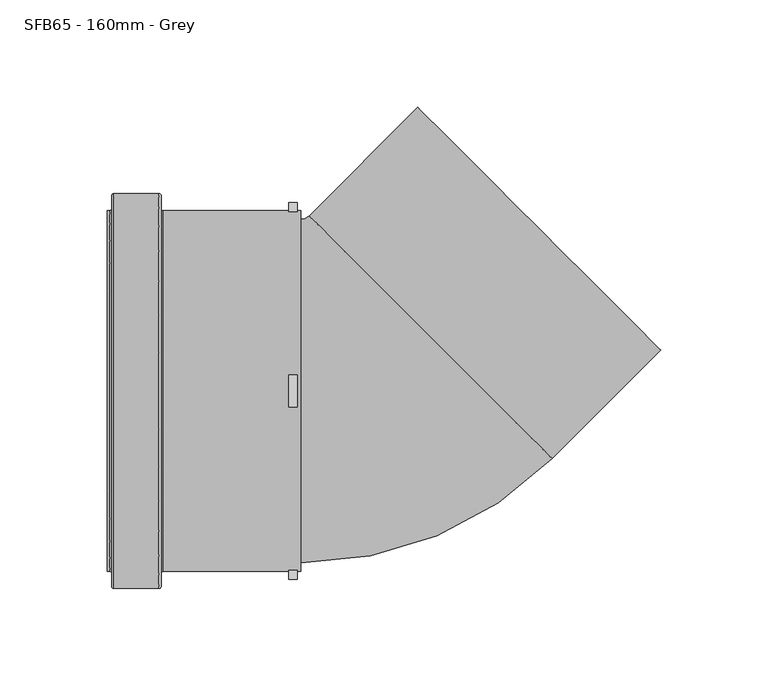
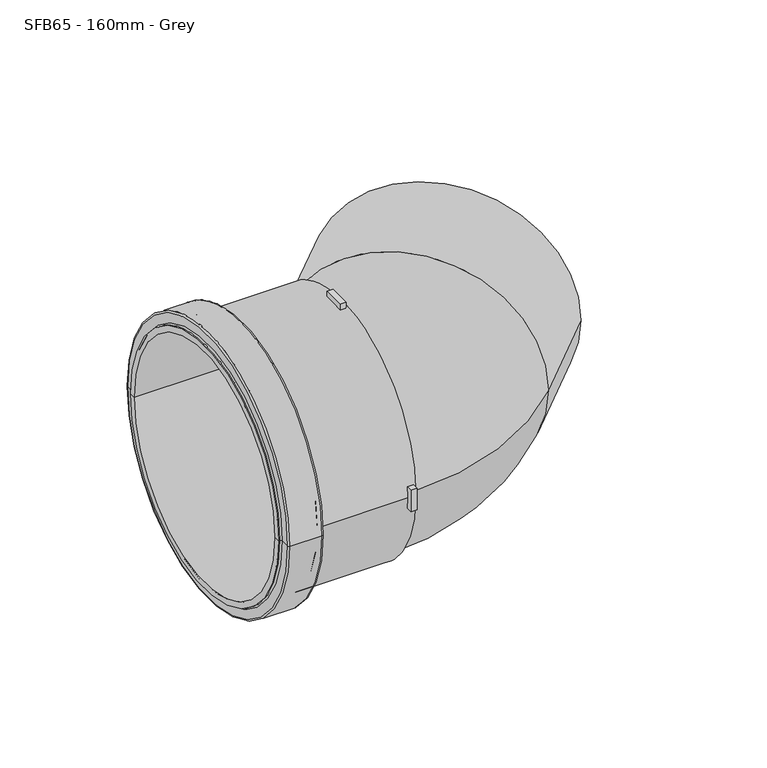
"""IFC4 building model written with IfcOpenShell, lengths in millimetres: pipe fitting geometry, MarleyPlumbingAndDrainage_PipeFitting_ShortRadiusBend45_SB35 : SFB65 - 160mm - Grey."""

from ifc_helpers import new_model, si_unit, point, frame, origin, place, context, project, spatial, polyline, circle_curve, ellipse_curve, trimmed, source, transform, mapped, element, save
from ifc_brep_helpers import plane_surface, cylinder_surface, revolved_surface, advanced_brep


def sfb65_160mm_grey_07c2b157(model_context):
    return source(origin(), model_context, "Body", "AdvancedBrep", [
        advanced_brep(
        [(-116.1820477, 92.0, 0.0), (-116.1820477, -92.0, 0.0), (-115.1820477, -91.0, 0.0), (-115.1820477, 91.0, 0.0), (-137.1820477, 92.0, 0.0), (-137.1820477, -92.0, 0.0), (-138.1820477, 91.0, 0.0), (-138.1820477, -91.0, 0.0), (-138.1820477, 85.0, 0.0), (-138.1820477, -85.0, 0.0), (-139.1820477, 84.0, 0.0), (-139.1820477, -84.0, 0.0), (-140.1820477, 80.0, 0.0), (-140.1820477, -80.0, 0.0), (-140.1820477, -84.0, 0.0), (-140.1820477, 84.0, 0.0), (-50.1820477, 80.0, 0.0), (-50.1820477, -80.0, 0.0), (-50.1820477, 84.0, 0.0), (-50.1820477, -84.0, 0.0), (-51.6820477, 84.0, 0.0), (-51.6820477, 83.6645086, 7.5), (-55.6820477, 83.6645086, 7.5), (-55.6820477, 84.0, 0.0), (-114.1820477, 84.0, 0.0), (-114.1820477, -84.0, 0.0), (-55.6820477, -84.0, 0.0), (-55.6820477, -83.6645086, 7.5), (-51.6820477, -83.6645086, 7.5), (-51.6820477, -84.0, 0.0), (-55.6820477, -7.5, 83.6645086), (-55.6820477, 7.5, 83.6645086), (-51.6820477, 7.5, 83.6645086), (-51.6820477, -7.5, 83.6645086), (-51.6820477, -83.6645086, -7.5), (-55.6820477, -83.6645086, -7.5), (-55.6820477, 83.6645086, -7.5), (-51.6820477, 83.6645086, -7.5), (-55.6820477, 7.5, -83.6645086), (-55.6820477, -7.5, -83.6645086), (-51.6820477, -7.5, -83.6645086), (-51.6820477, 7.5, -83.6645086), (-115.1820477, 85.0, 0.0), (-115.1820477, -85.0, 0.0), (-55.6820477, 87.6798152, 7.5), (-55.6820477, 87.6798152, -7.5), (-55.6820477, -7.5, 87.6798152), (-55.6820477, 7.5, 87.6798152), (-55.6820477, -87.6798152, -7.5), (-55.6820477, -87.6798152, 7.5), (-55.6820477, 7.5, -87.6798152), (-55.6820477, -7.5, -87.6798152), (-51.6820477, 87.6798152, -7.5), (-51.6820477, 87.6798152, 7.5), (-51.6820477, 7.5, 87.6798152), (-51.6820477, -7.5, 87.6798152), (-51.6820477, -87.6798152, 7.5), (-51.6820477, -87.6798152, -7.5), (-51.6820477, -7.5, -87.6798152), (-51.6820477, 7.5, -87.6798152)],
        [
            (0, 1, circle_curve(frame((-116.1820477, 0.0, 0.0), z_axis=(1.0, 0.0, 0.0), x_axis=(0.0, -1.0, 0.0)), 92.0)),
            (1, 2, circle_curve(frame((-116.1820477, -91.0, 0.0), z_axis=(0.0, 0.0, 1.0), x_axis=(0.0, -1.0, 0.0)), 1.0)),
            (2, 3, circle_curve(frame((-115.1820477, 0.0, 0.0), z_axis=(-1.0, 0.0, 0.0), x_axis=(0.0, -1.0, 0.0)), 91.0)),
            (3, 0, circle_curve(frame((-116.1820477, 91.0, 0.0), z_axis=(0.0, 0.0, 1.0), x_axis=(0.0, 1.0, 0.0)), 1.0)),
            (1, 0, circle_curve(frame((-116.1820477, 0.0, 0.0), z_axis=(1.0, 0.0, 0.0), x_axis=(0.0, -1.0, 0.0)), 92.0)),
            (3, 2, circle_curve(frame((-115.1820477, 0.0, 0.0), z_axis=(-1.0, 0.0, 0.0), x_axis=(0.0, -1.0, 0.0)), 91.0)),
            (0, 4),
            (4, 5, circle_curve(frame((-137.1820477, 0.0, 0.0), z_axis=(1.0, 0.0, 0.0), x_axis=(0.0, -1.0, 0.0)), 92.0)),
            (5, 1),
            (5, 4, circle_curve(frame((-137.1820477, 0.0, 0.0), z_axis=(1.0, 0.0, 0.0), x_axis=(0.0, -1.0, 0.0)), 92.0)),
            (4, 6, circle_curve(frame((-137.1820477, 91.0, 0.0), z_axis=(0.0, 0.0, 1.0), x_axis=(0.0, 1.0, 0.0)), 1.0)),
            (6, 7, circle_curve(frame((-138.1820477, 0.0, 0.0), z_axis=(1.0, 0.0, 0.0), x_axis=(0.0, -1.0, 0.0)), 91.0)),
            (7, 5, circle_curve(frame((-137.1820477, -91.0, 0.0), z_axis=(0.0, 0.0, 1.0), x_axis=(0.0, -1.0, 0.0)), 1.0)),
            (7, 6, circle_curve(frame((-138.1820477, 0.0, 0.0), z_axis=(1.0, 0.0, 0.0), x_axis=(0.0, -1.0, 0.0)), 91.0)),
            (6, 8),
            (8, 9, circle_curve(frame((-138.1820477, 0.0, 0.0), z_axis=(1.0, 0.0, 0.0), x_axis=(0.0, -1.0, 0.0)), 85.0)),
            (9, 7),
            (9, 8, circle_curve(frame((-138.1820477, 0.0, 0.0), z_axis=(1.0, 0.0, 0.0), x_axis=(0.0, -1.0, 0.0)), 85.0)),
            (8, 10, circle_curve(frame((-139.1820477, 85.0, 0.0), z_axis=(0.0, 0.0, -1.0), x_axis=(0.0, 1.0, 0.0)), 1.0)),
            (10, 11, circle_curve(frame((-139.1820477, 0.0, 0.0), z_axis=(1.0, 0.0, 0.0), x_axis=(0.0, -1.0, 0.0)), 84.0)),
            (11, 9, circle_curve(frame((-139.1820477, -85.0, 0.0), z_axis=(0.0, 0.0, -1.0), x_axis=(0.0, -1.0, 0.0)), 1.0)),
            (11, 10, circle_curve(frame((-139.1820477, 0.0, 0.0), z_axis=(1.0, 0.0, 0.0), x_axis=(0.0, -1.0, 0.0)), 84.0)),
            (12, 13, circle_curve(frame((-140.1820477, 0.0, 0.0), z_axis=(1.0, 0.0, 0.0), x_axis=(0.0, -1.0, 0.0)), 80.0)),
            (13, 14),
            (14, 15, circle_curve(frame((-140.1820477, 0.0, 0.0), z_axis=(-1.0, 0.0, 0.0), x_axis=(0.0, -1.0, 0.0)), 84.0)),
            (15, 12),
            (13, 12, circle_curve(frame((-140.1820477, 0.0, 0.0), z_axis=(1.0, 0.0, 0.0), x_axis=(0.0, -1.0, 0.0)), 80.0)),
            (15, 14, circle_curve(frame((-140.1820477, 0.0, 0.0), z_axis=(-1.0, 0.0, 0.0), x_axis=(0.0, -1.0, 0.0)), 84.0)),
            (12, 16),
            (16, 17, circle_curve(frame((-50.1820477, 0.0, 0.0), z_axis=(1.0, 0.0, 0.0), x_axis=(0.0, -1.0, 0.0)), 80.0)),
            (17, 13),
            (17, 16, circle_curve(frame((-50.1820477, 0.0, 0.0), z_axis=(1.0, 0.0, 0.0), x_axis=(0.0, -1.0, 0.0)), 80.0)),
            (16, 18),
            (18, 19, circle_curve(frame((-50.1820477, 0.0, 0.0), z_axis=(1.0, 0.0, 0.0), x_axis=(0.0, -1.0, 0.0)), 84.0)),
            (19, 17),
            (19, 18, circle_curve(frame((-50.1820477, 0.0, 0.0), z_axis=(1.0, 0.0, 0.0), x_axis=(0.0, -1.0, 0.0)), 84.0)),
            (18, 20),
            (20, 21, circle_curve(frame((-51.6820477, 0.0, 0.0), z_axis=(1.0, 0.0, 0.0), x_axis=(0.0, -1.0, 0.0)), 84.0)),
            (21, 22),
            (22, 23, circle_curve(frame((-55.6820477, 0.0, 0.0), z_axis=(-1.0, 0.0, 0.0), x_axis=(0.0, -1.0, 0.0)), 84.0)),
            (23, 24),
            (24, 25, circle_curve(frame((-114.1820477, 0.0, 0.0), z_axis=(1.0, 0.0, 0.0), x_axis=(0.0, -1.0, 0.0)), 84.0)),
            (25, 26),
            (26, 27, circle_curve(frame((-55.6820477, 0.0, 0.0), z_axis=(-1.0, 0.0, 0.0), x_axis=(0.0, -1.0, 0.0)), 84.0)),
            (27, 28),
            (28, 29, circle_curve(frame((-51.6820477, 0.0, 0.0), z_axis=(1.0, 0.0, 0.0), x_axis=(0.0, -1.0, 0.0)), 84.0)),
            (29, 19),
            (30, 31, circle_curve(frame((-55.6820477, 0.0, 0.0), z_axis=(-1.0, 0.0, 0.0), x_axis=(0.0, -1.0, 0.0)), 84.0)),
            (31, 32),
            (32, 33, circle_curve(frame((-51.6820477, 0.0, 0.0), z_axis=(1.0, 0.0, 0.0), x_axis=(0.0, -1.0, 0.0)), 84.0)),
            (33, 30),
            (29, 34, circle_curve(frame((-51.6820477, 0.0, 0.0), z_axis=(1.0, 0.0, 0.0), x_axis=(0.0, -1.0, 0.0)), 84.0)),
            (34, 35),
            (35, 26, circle_curve(frame((-55.6820477, 0.0, 0.0), z_axis=(-1.0, 0.0, 0.0), x_axis=(0.0, -1.0, 0.0)), 84.0)),
            (25, 24, circle_curve(frame((-114.1820477, 0.0, 0.0), z_axis=(1.0, 0.0, 0.0), x_axis=(0.0, -1.0, 0.0)), 84.0)),
            (23, 36, circle_curve(frame((-55.6820477, 0.0, 0.0), z_axis=(-1.0, 0.0, 0.0), x_axis=(0.0, -1.0, 0.0)), 84.0)),
            (36, 37),
            (37, 20, circle_curve(frame((-51.6820477, 0.0, 0.0), z_axis=(1.0, 0.0, 0.0), x_axis=(0.0, -1.0, 0.0)), 84.0)),
            (38, 39, circle_curve(frame((-55.6820477, 0.0, 0.0), z_axis=(-1.0, 0.0, 0.0), x_axis=(0.0, -1.0, 0.0)), 84.0)),
            (39, 40),
            (40, 41, circle_curve(frame((-51.6820477, 0.0, 0.0), z_axis=(1.0, 0.0, 0.0), x_axis=(0.0, -1.0, 0.0)), 84.0)),
            (41, 38),
            (24, 42, circle_curve(frame((-114.1820477, 85.0, 0.0), z_axis=(0.0, 0.0, -1.0), x_axis=(0.0, 1.0, 0.0)), 1.0)),
            (42, 43, circle_curve(frame((-115.1820477, 0.0, 0.0), z_axis=(1.0, 0.0, 0.0), x_axis=(0.0, -1.0, 0.0)), 85.0)),
            (43, 25, circle_curve(frame((-114.1820477, -85.0, 0.0), z_axis=(0.0, 0.0, -1.0), x_axis=(0.0, -1.0, 0.0)), 1.0)),
            (43, 42, circle_curve(frame((-115.1820477, 0.0, 0.0), z_axis=(1.0, 0.0, 0.0), x_axis=(0.0, -1.0, 0.0)), 85.0)),
            (2, 43),
            (42, 3),
            (10, 15),
            (14, 11),
            (22, 44),
            (44, 45, circle_curve(frame((-55.6820477, 0.0, 0.0), z_axis=(-1.0, 0.0, 0.0), x_axis=(0.0, -1.0, 0.0)), 88.0)),
            (45, 36),
            (30, 46),
            (46, 47, circle_curve(frame((-55.6820477, 0.0, 0.0), z_axis=(-1.0, 0.0, 0.0), x_axis=(0.0, -1.0, 0.0)), 88.0)),
            (47, 31),
            (35, 48),
            (48, 49, circle_curve(frame((-55.6820477, 0.0, 0.0), z_axis=(-1.0, 0.0, 0.0), x_axis=(0.0, -1.0, 0.0)), 88.0)),
            (49, 27),
            (38, 50),
            (50, 51, circle_curve(frame((-55.6820477, 0.0, 0.0), z_axis=(-1.0, 0.0, 0.0), x_axis=(0.0, -1.0, 0.0)), 88.0)),
            (51, 39),
            (37, 52),
            (52, 53, circle_curve(frame((-51.6820477, 0.0, 0.0), z_axis=(1.0, 0.0, 0.0), x_axis=(0.0, -1.0, 0.0)), 88.0)),
            (53, 21),
            (32, 54),
            (54, 55, circle_curve(frame((-51.6820477, 0.0, 0.0), z_axis=(1.0, 0.0, 0.0), x_axis=(0.0, -1.0, 0.0)), 88.0)),
            (55, 33),
            (28, 56),
            (56, 57, circle_curve(frame((-51.6820477, 0.0, 0.0), z_axis=(1.0, 0.0, 0.0), x_axis=(0.0, -1.0, 0.0)), 88.0)),
            (57, 34),
            (40, 58),
            (58, 59, circle_curve(frame((-51.6820477, 0.0, 0.0), z_axis=(1.0, 0.0, 0.0), x_axis=(0.0, -1.0, 0.0)), 88.0)),
            (59, 41),
            (53, 44),
            (52, 45),
            (55, 46),
            (54, 47),
            (57, 48),
            (56, 49),
            (59, 50),
            (58, 51),
        ],
        [
            revolved_surface(trimmed(ellipse_curve(frame((-116.1820477, -91.0, 0.0), z_axis=(0.0, 0.0, -1.0), x_axis=(0.0, -1.0, 0.0)), 1.0, 1.0), [point((-115.1820477, -91.0, 0.0))], [point((-116.1820477, -92.0, 0.0))], True, "CARTESIAN"), (-195.1820477, 0.0, 0.0), (-1.0, 0.0, 0.0)),
            cylinder_surface(frame((-195.1820477, 0.0, 0.0), z_axis=(-1.0, 0.0, 0.0), x_axis=(0.0, -1.0, 0.0)), 92.0),
            revolved_surface(trimmed(ellipse_curve(frame((-137.1820477, -91.0, 0.0), z_axis=(0.0, 0.0, -1.0), x_axis=(0.0, -1.0, 0.0)), 1.0, 1.0), [point((-137.1820477, -92.0, 0.0))], [point((-138.1820477, -91.0, 0.0))], True, "CARTESIAN"), (-195.1820477, 0.0, 0.0), (-1.0, 0.0, 0.0)),
            plane_surface(frame((-138.1820477, 0.0, 0.0), z_axis=(-1.0, 0.0, 0.0), x_axis=(0.0, -1.0, 0.0))),
            revolved_surface(trimmed(ellipse_curve(frame((-139.1820477, -85.0, 0.0), z_axis=(0.0, 0.0, 1.0), x_axis=(0.0, -1.0, 0.0)), 1.0, 1.0), [point((-138.1820477, -85.0, 0.0))], [point((-139.1820477, -84.0, 0.0))], True, "CARTESIAN"), (-195.1820477, 0.0, 0.0), (-1.0, 0.0, 0.0)),
            plane_surface(frame((-140.1820477, 0.0, 0.0), z_axis=(-1.0, 0.0, 0.0), x_axis=(0.0, -1.0, 0.0))),
            revolved_surface(polyline([(-140.1820477, -80.0, 0.0), (-50.1820477, -80.0, 0.0)]), (-195.1820477, 0.0, 0.0), (-1.0, 0.0, 0.0)),
            plane_surface(frame((-50.1820477, 0.0, 0.0), z_axis=(1.0, 0.0, 0.0), x_axis=(0.0, -1.0, 0.0))),
            cylinder_surface(frame((-195.1820477, 0.0, 0.0), z_axis=(-1.0, 0.0, 0.0), x_axis=(0.0, -1.0, 0.0)), 84.0),
            revolved_surface(trimmed(ellipse_curve(frame((-114.1820477, -85.0, 0.0), z_axis=(0.0, 0.0, 1.0), x_axis=(0.0, -1.0, 0.0)), 1.0, 1.0), [point((-114.1820477, -84.0, 0.0))], [point((-115.1820477, -85.0, 0.0))], True, "CARTESIAN"), (-195.1820477, 0.0, 0.0), (-1.0, 0.0, 0.0)),
            plane_surface(frame((-115.1820477, 0.0, 0.0), z_axis=(1.0, 0.0, 0.0), x_axis=(0.0, -1.0, 0.0))),
            plane_surface(frame((-55.6820477, -84.0, 0.0), z_axis=(-1.0, 0.0, 0.0), x_axis=(0.0, 0.0, -1.0))),
            plane_surface(frame((-51.6820477, -84.0, 0.0), z_axis=(1.0, 0.0, 0.0), x_axis=(0.0, 0.0, 1.0))),
            plane_surface(frame((-55.6820477, 83.6645086, 7.5), z_axis=(0.0, 0.0, 1.0), x_axis=(1.0, 0.0, 0.0))),
            cylinder_surface(frame((-51.6820477, 0.0, 0.0), z_axis=(-1.0, 0.0, 0.0), x_axis=(0.0, -1.0, 0.0)), 88.0),
            plane_surface(frame((-55.6820477, 87.6798152, -7.5), z_axis=(0.0, 0.0, -1.0), x_axis=(1.0, 0.0, 0.0))),
            plane_surface(frame((-55.6820477, -7.5, 83.6645086), z_axis=(0.0, -1.0, 0.0), x_axis=(1.0, 0.0, 0.0))),
            cylinder_surface(frame((-50.1820477, 0.0, 0.0), z_axis=(-1.0, 0.0, 0.0), x_axis=(0.0, -1.0, 0.0)), 88.0),
            plane_surface(frame((-55.6820477, 7.5, 87.6798152), z_axis=(0.0, 1.0, 0.0), x_axis=(1.0, 0.0, 0.0))),
            plane_surface(frame((-55.6820477, -83.6645086, -7.5), z_axis=(0.0, 0.0, -1.0), x_axis=(1.0, 0.0, 0.0))),
            plane_surface(frame((-55.6820477, -87.6798152, 7.5), z_axis=(0.0, 0.0, 1.0), x_axis=(1.0, 0.0, 0.0))),
            plane_surface(frame((-55.6820477, 7.5, -83.6645086), z_axis=(0.0, 1.0, 0.0), x_axis=(1.0, 0.0, 0.0))),
            plane_surface(frame((-55.6820477, -7.5, -87.6798152), z_axis=(0.0, -1.0, 0.0), x_axis=(1.0, 0.0, 0.0))),
        ],
        [
            (0, [[1, 2, 3, 4]]),
            (0, [[-2, 5, -4, 6]]),
            (1, [[-1, 7, 8, 9]]),
            (1, [[-5, -9, 10, -7]]),
            (2, [[-8, 11, 12, 13]]),
            (2, [[-10, -13, 14, -11]]),
            (3, [[-12, 15, 16, 17]]),
            (3, [[-14, -17, 18, -15]]),
            (4, [[-16, 19, 20, 21]]),
            (4, [[-18, -21, 22, -19]]),
            (5, [[23, 24, 25, 26]]),
            (5, [[-24, 27, -26, 28]]),
            (6, [[-23, 29, 30, 31]]),
            (6, [[-27, -31, 32, -29]]),
            (7, [[-30, 33, 34, 35]]),
            (7, [[-32, -35, 36, -33]]),
            (8, [[-34, 37, 38, 39, 40, 41, 42, 43, 44, 45, 46, 47], [48, 49, 50, 51]]),
            (8, [[-36, -47, 52, 53, 54, -43, 55, -41, 56, 57, 58, -37], [59, 60, 61, 62]]),
            (9, [[-42, 63, 64, 65]]),
            (9, [[-55, -65, 66, -63]]),
            (10, [[-3, 67, -64, 68]]),
            (10, [[-6, -68, -66, -67]]),
            (8, [[-20, 69, -25, 70]]),
            (8, [[-22, -70, -28, -69]]),
            (11, [[71, 72, 73, -56, -40]]),
            (11, [[74, 75, 76, -48]]),
            (11, [[77, 78, 79, -44, -54]]),
            (11, [[80, 81, 82, -59]]),
            (12, [[83, 84, 85, -38, -58]]),
            (12, [[86, 87, 88, -50]]),
            (12, [[89, 90, 91, -52, -46]]),
            (12, [[92, 93, 94, -61]]),
            (13, [[-71, -39, -85, 95]]),
            (14, [[-72, -95, -84, 96]]),
            (15, [[-73, -96, -83, -57]]),
            (16, [[-74, -51, -88, 97]]),
            (17, [[-75, -97, -87, 98]]),
            (18, [[-76, -98, -86, -49]]),
            (19, [[-77, -53, -91, 99]]),
            (17, [[-78, -99, -90, 100]]),
            (20, [[-79, -100, -89, -45]]),
            (21, [[-80, -62, -94, 101]]),
            (17, [[-81, -101, -93, 102]]),
            (22, [[-82, -102, -92, -60]]),
        ],
    ),
        advanced_brep(
        [(-50.1820477, -80.0, 0.0), (-50.1820477, 80.0, 0.0), (-46.2929604, 81.6109127, 0.0), (66.8441246, -31.5261723, 0.0), (117.4022595, 19.0319626, 0.0), (4.2651745, 132.1690476, 0.0)],
        [
            (0, 1, circle_curve(frame((-50.1820477, 0.0, 0.0), z_axis=(-1.0, 0.0, 0.0), x_axis=(0.0, 1.0, 0.0)), 80.0)),
            (1, 0, circle_curve(frame((-50.1820477, 0.0, 0.0), z_axis=(-1.0, 0.0, 0.0), x_axis=(0.0, 1.0, 0.0)), 80.0)),
            (2, 1, circle_curve(frame((-50.1820477, 85.5, 0.0), z_axis=(0.0, 0.0, -1.0), x_axis=(0.0, -1.0, 0.0)), 5.5)),
            (0, 3, circle_curve(frame((-50.1820477, 85.5, 0.0), z_axis=(0.0, 0.0, 1.0), x_axis=(0.0, -1.0, 0.0)), 165.5)),
            (3, 2, circle_curve(frame((10.2755821, 25.0423702, 0.0), z_axis=(-0.7071067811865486, -0.7071067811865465, 0.0), x_axis=(-0.7071067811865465, 0.7071067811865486, 0.0)), 80.0)),
            (2, 3, circle_curve(frame((10.2755821, 25.0423702, 0.0), z_axis=(-0.7071067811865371, -0.7071067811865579, 0.0), x_axis=(-0.7071067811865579, 0.7071067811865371, 0.0)), 80.0)),
            (4, 5, circle_curve(frame((60.833717, 75.6005051, 0.0), z_axis=(0.707106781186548, 0.707106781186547, 0.0), x_axis=(-0.707106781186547, 0.707106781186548, 0.0)), 80.0)),
            (5, 4, circle_curve(frame((60.833717, 75.6005051, 0.0), z_axis=(0.707106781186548, 0.707106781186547, 0.0), x_axis=(-0.707106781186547, 0.707106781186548, 0.0)), 80.0)),
            (3, 4),
            (5, 2),
        ],
        [
            plane_surface(frame((-50.1820477, 0.0, 0.0), z_axis=(-1.0, 0.0, 0.0), x_axis=(0.0, 0.0, 1.0))),
            revolved_surface(trimmed(ellipse_curve(frame((-50.1820477, 0.0, 0.0), z_axis=(-1.0, 0.0, 0.0), x_axis=(0.0, 1.0, 0.0)), 80.0, 80.0), [point((-50.1820477, -80.0, 0.0))], [point((-50.1820477, 80.0, 0.0))], True, "CARTESIAN"), (-50.1820477, 85.5, 0.0), (0.0, 0.0, 1.0)),
            revolved_surface(trimmed(ellipse_curve(frame((-50.1820477, 0.0, 0.0), z_axis=(-1.0, 0.0, 0.0), x_axis=(0.0, 1.0, 0.0)), 80.0, 80.0), [point((-50.1820477, 80.0, 0.0))], [point((-50.1820477, -80.0, 0.0))], True, "CARTESIAN"), (-50.1820477, 85.5, 0.0), (0.0, 0.0, 1.0)),
            plane_surface(frame((60.833717, 75.6005051, 0.0), z_axis=(0.707106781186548, 0.707106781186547, 0.0), x_axis=(0.0, 0.0, 1.0))),
            cylinder_surface(frame((10.2755821, 25.0423702, 0.0), z_axis=(-0.707106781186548, -0.707106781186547, 0.0), x_axis=(-0.707106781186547, 0.707106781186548, 0.0)), 80.0),
        ],
        [
            (0, [[1, 2]]),
            (1, [[3, -1, 4, 5]]),
            (2, [[-4, -2, -3, 6]]),
            (3, [[7, 8]]),
            (4, [[-5, 9, -8, 10]]),
            (4, [[-6, -10, -7, -9]]),
        ],
    ),
    ])


if __name__ == "__main__":
    model = new_model("IFC4")
    model_context = context("Model", 3, world=origin())
    ifc_project = project(units=[si_unit("LENGTHUNIT", "METRE", prefix="MILLI")], contexts=[model_context])
    site = spatial("IfcSite", under=ifc_project)
    building = spatial("IfcBuilding", under=site)
    placement = place(None, origin())
    sfb65_160mm_grey_shape = sfb65_160mm_grey_07c2b157(model_context)
    element("IfcPipeFitting", 1, ObjectType="MarleyPlumbingAndDrainage_PipeFitting_ShortRadiusBend45_SB35 : SFB65 - 160mm - Grey", at=placement, inside=building, context=model_context, shape_type="MappedRepresentation", body=[
        mapped(sfb65_160mm_grey_shape, transform((0.0, 0.0, 0.0), x_axis=(1.0, 0.0, 0.0), y_axis=(0.0, 1.0, 0.0), z_axis=(0.0, 0.0, 1.0))),
    ])
    save(model, "model.ifc")
